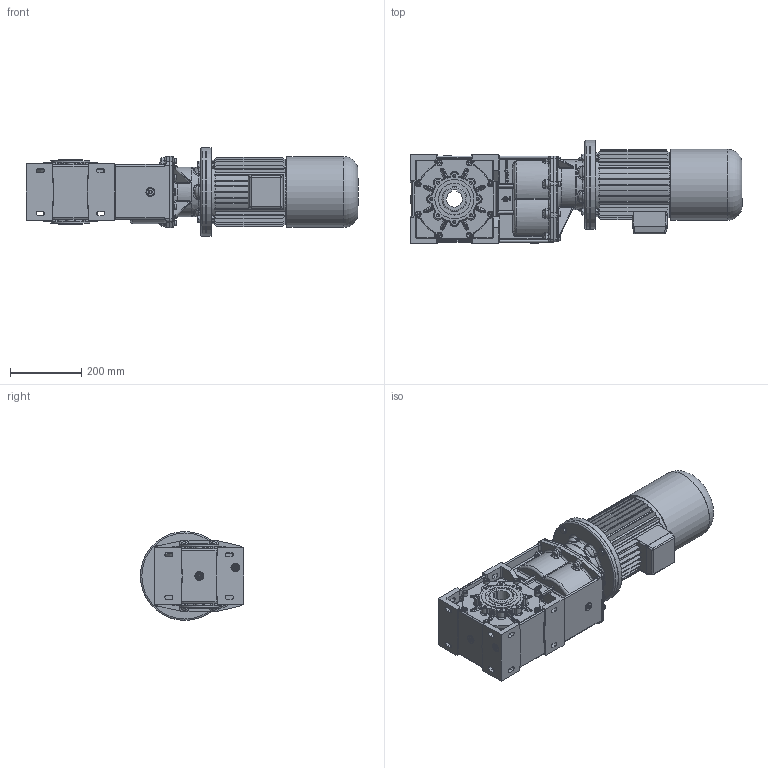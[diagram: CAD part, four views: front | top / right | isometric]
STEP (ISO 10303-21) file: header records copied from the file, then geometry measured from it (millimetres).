
FILE_DESCRIPTION((''),'2;1');
FILE_NAME('F:\Ghirri\3D\MO_RO40\Assiemi\MO40_2s-B5_100brake.stp','2006-02-01T16:02:50',('Stefano'),(''),'Autodesk Inventor 10','Autodesk Inventor 10','');
FILE_SCHEMA(('AUTOMOTIVE_DESIGN { 1 0 10303 214 1 1 1 1 }'));
Length unit declared in the file: millimetre
Products named in the file (18): MO40_2s-B5_100brake; Primario_MO40_2S; 3904001-A0; 3904002-A0; 3904003-A0; 3904009-A0; DIN 3760 AS AS - 70 x 90 x 10 - NBR; Guarnizione 3_8 GAS; Tappo 3_8 GAS_esagn_incsst; UNI 5931  M 10 x  25; UNI 8839 A 8; UNI 5931  M 8 x  30; motori B5 brake 100; FM_MRV70_D=250_1; FM_MRV70_D=250; UNI 6593 11 x 21; UNI 5738  M10 x 1.25 x 40; UNI 5589  M10
Assembly tree (60 placements, depth 3):
  MO40_2s-B5_100brake
    Primario_MO40_2S
      3904001-A0
      3904002-A0
      3904003-A0
      3904009-A0
      DIN 3760 AS AS - 70 x 90 x 10 - NBR  x2
      Guarnizione 3_8 GAS  x5
      Tappo 3_8 GAS_esagn_incsst  x5
      UNI 5931  M 10 x  25  x8
      UNI 8839 A 8  x8
      UNI 5931  M 8 x  30  x8
    motori B5 brake 100
    FM_MRV70_D=250_1
      FM_MRV70_D=250
      UNI 6593 11 x 21  x8
      UNI 5738  M10 x 1.25 x 40  x4
      UNI 5589  M10  x4
Bounding box: 934 x 290.37 x 250 mm (x, y, z)
Volume: 21375239.6 mm3; surface area: 1904859.9 mm2
Topology: 59 solids, 60 shells, 3407 faces, 8508 edges, 5266 vertices
Faces by surface type: plane 1362, cylinder 958, bspline 846, cone 183, torus 54, sphere 4
Full cylindrical faces by diameter (mm): 5 x1, 8 x10, 8.5 x8, 10 x12, 10.5 x8, 11 x8, 13 x8, 14 x4, 14.95 x1, 16 x8, 16.2 x4, 16.3 x5, 16.5 x5, 20 x6, 21 x8, 22 x10, 25 x1, 28 x1, 70 x2, 76 x2, 85 x2, 90 x5, 100 x2, 110 x2, 140 x2, 175.12 x1, 180 x3, 194.4 x1, 195 x1, 199 x1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
Entity records: 149848 total; most frequent: CARTESIAN_POINT 83177, ORIENTED_EDGE 14114, DIRECTION 13157, EDGE_CURVE 7057, AXIS2_PLACEMENT_3D 4824, VERTEX_POINT 4483, VECTOR 3509, LINE 3509
